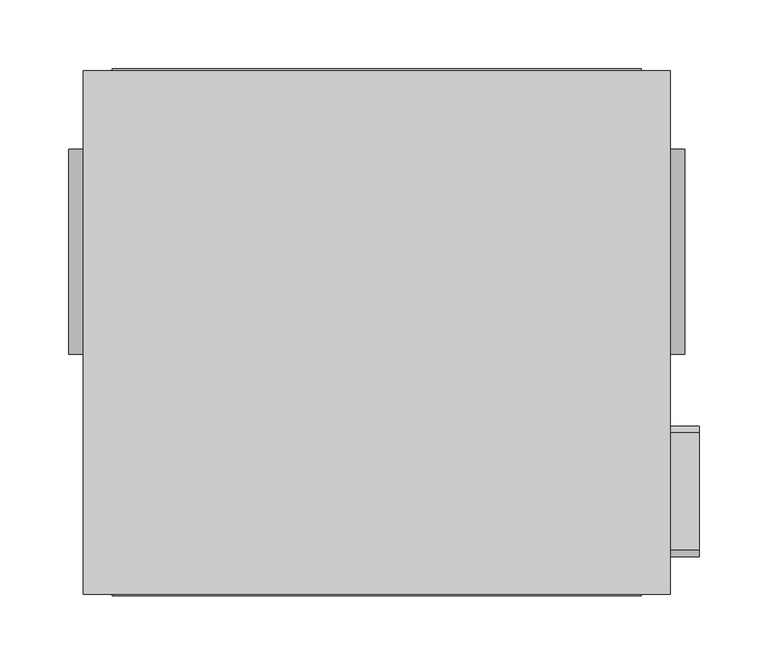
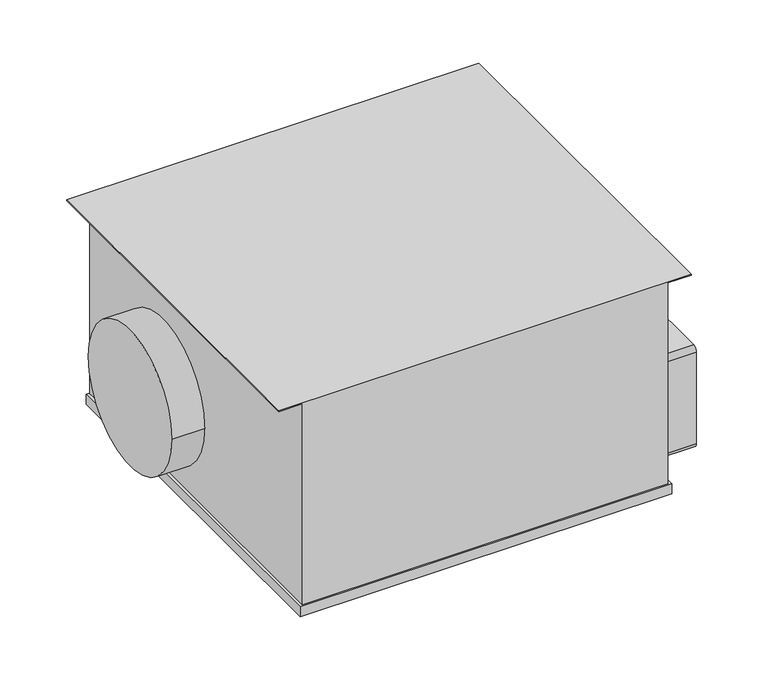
"""IFC4 building model written with IfcOpenShell, lengths in millimetres: unitary equipment geometry, VE-Wentylator-ParaForma-Harmann-ECOBOX_EC-Nawiewny : 150/500EC."""

import ifcopenshell
import ifcopenshell.guid

model = None  # the IFC model being written
_history = None  # IfcOwnerHistory: only IFC2X3 demands one
_inside = {}  # id of a spatial element -> (the spatial element, [elements in it])
_under = {}  # id of a project, library or spatial element -> (it, [spatial elements below it])
_declared = {}  # id of a project -> (the project, [libraries it declares])
_typed = {}  # id of a type object -> (the type object, [elements of that type])
_made_of = {}  # id of a material, layer set ... -> (it, [elements and type objects made of it])


def new_model(schema):
    """Start an empty IFC model of exactly this schema.

    Asked for "IFC4X3", IfcOpenShell would pick the latest addendum, in which some entities
    have other attributes; the version numbers below select the first issue.
    IFC2X3 requires an IfcOwnerHistory on every rooted entity: one is made here for all.
    """
    global model, _history
    if schema == "IFC4X3":
        model = ifcopenshell.file(schema_version=(4, 3, 0, 0))
    else:
        model = ifcopenshell.file(schema=schema)
    _inside.clear()
    _under.clear()
    _declared.clear()
    _typed.clear()
    _made_of.clear()
    _history = None
    if model.schema == "IFC2X3":
        org = make("IfcOrganization", Name="unknown")
        user = make(
            "IfcPersonAndOrganization",
            ThePerson=make("IfcPerson", FamilyName="unknown"),
            TheOrganization=org,
        )
        app = make(
            "IfcApplication",
            ApplicationDeveloper=org,
            Version="unknown",
            ApplicationFullName="unknown",
            ApplicationIdentifier="unknown",
        )
        _history = make(
            "IfcOwnerHistory",
            OwningUser=user,
            OwningApplication=app,
            ChangeAction="ADDED",
            CreationDate=0,
        )
    return model


def make(cls, **values):
    """One entity of the class cls with the attributes given. An attribute that is None is left unset."""
    return model.create_entity(
        cls, **{name: value for name, value in values.items() if value is not None}
    )


def rooted(cls, **values):
    """An entity with a GlobalId (a new one), such as an element, a storey or a relation."""
    return make(cls, GlobalId=ifcopenshell.guid.new(), OwnerHistory=_history, **values)


def si_unit(unit_type, name, prefix=None):
    """IfcSIUnit, for example si_unit("LENGTHUNIT", "METRE", prefix="MILLI")."""
    return make("IfcSIUnit", UnitType=unit_type, Prefix=prefix, Name=name)


def assignment(units):
    """IfcUnitAssignment: the units of a project."""
    return None if units is None else make("IfcUnitAssignment", Units=units)


def point(xyz):
    """IfcCartesianPoint."""
    return None if xyz is None else make("IfcCartesianPoint", Coordinates=xyz)


def direction(xyz):
    """IfcDirection."""
    return None if xyz is None else make("IfcDirection", DirectionRatios=xyz)


def frame(location, z_axis=None, x_axis=None):
    """IfcAxis2Placement3D, a coordinate frame: its origin and axes. An axis left out is left unset."""
    return make(
        "IfcAxis2Placement3D",
        Location=point(location),
        Axis=direction(z_axis),
        RefDirection=direction(x_axis),
    )


def frame_2d(location, x_axis=None):
    """IfcAxis2Placement2D, a coordinate frame in the plane: its origin and x axis."""
    return make(
        "IfcAxis2Placement2D", Location=point(location), RefDirection=direction(x_axis)
    )


def origin():
    """The frame at (0, 0, 0) with its axes left unset."""
    return frame((0.0, 0.0, 0.0))


def origin_2d():
    """The frame at (0, 0) in the plane with its x axis left unset."""
    return frame_2d((0.0, 0.0))


def place(relative_to, where):
    """IfcLocalPlacement: puts the frame where relative to a parent placement (None: the world)."""
    return make(
        "IfcLocalPlacement", PlacementRelTo=relative_to, RelativePlacement=where
    )


def context(
    kind, dimensions, precision=None, world=None, true_north=None, identifier=None
):
    """IfcGeometricRepresentationContext, for example the 3D "Model" context."""
    return make(
        "IfcGeometricRepresentationContext",
        ContextIdentifier=identifier,
        ContextType=kind,
        CoordinateSpaceDimension=dimensions,
        Precision=precision,
        WorldCoordinateSystem=world,
        TrueNorth=true_north,
    )


def project(units=None, contexts=None):
    """IfcProject with its units and contexts."""
    return rooted(
        "IfcProject",
        Name="project",
        RepresentationContexts=contexts,
        UnitsInContext=assignment(units),
    )


def spatial(cls, under=None, at=None, **own):
    """A site, building, storey or space (cls), placed at a placement, below another one or the project."""
    s = rooted(cls, ObjectPlacement=at, **own)
    if under is not None:
        _under.setdefault(under.id(), (under, []))[1].append(s)
    return s


def polyline(points):
    """IfcPolyline through the points."""
    return make("IfcPolyline", Points=[point(p) for p in points])


def circle_curve(where, radius):
    """IfcCircle in the frame where."""
    return make("IfcCircle", Position=where, Radius=radius)


def trimmed(basis, trim1, trim2, sense, master):
    """IfcTrimmedCurve: the piece of a basis curve between two trims."""
    return make(
        "IfcTrimmedCurve",
        BasisCurve=basis,
        Trim1=trim1,
        Trim2=trim2,
        SenseAgreement=sense,
        MasterRepresentation=master,
    )


def segment(curve, same_sense, transition):
    """IfcCompositeCurveSegment."""
    return make(
        "IfcCompositeCurveSegment",
        Transition=transition,
        SameSense=same_sense,
        ParentCurve=curve,
    )


def composite_curve(segments, self_intersect=None):
    """IfcCompositeCurve: segments joined end to end."""
    return make("IfcCompositeCurve", Segments=segments, SelfIntersect=self_intersect)


def outline(outer, holes=None, kind="AREA"):
    """IfcArbitraryClosedProfileDef: a profile drawn as a closed curve; with holes, ...WithVoids."""
    if holes is None:
        return make("IfcArbitraryClosedProfileDef", ProfileType=kind, OuterCurve=outer)
    return make(
        "IfcArbitraryProfileDefWithVoids",
        ProfileType=kind,
        OuterCurve=outer,
        InnerCurves=holes,
    )


def extrude(swept, where, along, depth):
    """IfcExtrudedAreaSolid: the profile swept, set in the frame where, extruded along a direction by depth."""
    return make(
        "IfcExtrudedAreaSolid",
        SweptArea=swept,
        Position=where,
        ExtrudedDirection=direction(along),
        Depth=depth,
    )


def shape(context_of_items, identifier, shape_type, items):
    """IfcShapeRepresentation: the items that make up one representation, for example the "Body"."""
    return make(
        "IfcShapeRepresentation",
        ContextOfItems=context_of_items,
        RepresentationIdentifier=identifier,
        RepresentationType=shape_type,
        Items=items,
    )


def source(mapping_origin, context_of_items, identifier, shape_type, items):
    """IfcRepresentationMap: a shape defined once, which mapped items show again and again."""
    return make(
        "IfcRepresentationMap",
        MappingOrigin=mapping_origin,
        MappedRepresentation=shape(context_of_items, identifier, shape_type, items),
    )


def transform(
    local_origin,
    x_axis=None,
    y_axis=None,
    z_axis=None,
    scale=None,
    scale2=None,
    scale3=None,
    uniform=True,
):
    """IfcCartesianTransformationOperator3D, or its non-uniform kind. x_axis, y_axis, z_axis: its Axis1, 2, 3."""
    if uniform:
        return make(
            "IfcCartesianTransformationOperator3D",
            Axis1=direction(x_axis),
            Axis2=direction(y_axis),
            LocalOrigin=point(local_origin),
            Scale=scale,
            Axis3=direction(z_axis),
        )
    return make(
        "IfcCartesianTransformationOperator3DnonUniform",
        Axis1=direction(x_axis),
        Axis2=direction(y_axis),
        LocalOrigin=point(local_origin),
        Scale=scale,
        Axis3=direction(z_axis),
        Scale2=scale2,
        Scale3=scale3,
    )


def mapped(mapping_source, mapping_target):
    """IfcMappedItem: shows the shape of a source again, moved by a transform."""
    return make(
        "IfcMappedItem", MappingSource=mapping_source, MappingTarget=mapping_target
    )


def made_of(thing, what):
    """Note that an element or type object is made of a material, layer set ...; save() writes the relation."""
    if what is not None:
        _made_of.setdefault(what.id(), (what, []))[1].append(thing)
    return thing


def element(
    cls,
    number,
    at=None,
    inside=None,
    cuts=None,
    type_object=None,
    material=None,
    context=None,
    identifier="Body",
    shape_type=None,
    held_by="IfcProductDefinitionShape",
    body=None,
    shapes=None,
    **own,
):
    """One element of the class cls, such as IfcWall. Its Tag is "e" and its number.

    at: its placement. inside: the storey or other place that contains it. cuts: it is an
    opening in that element (IfcRelVoidsElement). A single representation is given by context,
    identifier, shape_type and body (its items); several are given by shapes. held_by: the class
    of the entity that holds the representations. save() writes the other relations.
    """
    e = rooted(cls, Tag="e%d" % number, ObjectPlacement=at, **own)
    if body is not None:
        shapes = [shape(context, identifier, shape_type, body)]
    if shapes is not None:
        e.Representation = make(held_by, Representations=shapes)
    if inside is not None:
        _inside.setdefault(inside.id(), (inside, []))[1].append(e)
    if cuts is not None:
        rooted(
            "IfcRelVoidsElement", RelatingBuildingElement=cuts, RelatedOpeningElement=e
        )
    if type_object is not None:
        _typed.setdefault(type_object.id(), (type_object, []))[1].append(e)
    return made_of(e, material)


def aggregate(whole, parts):
    """IfcRelAggregates: a whole, such as a stair, and the parts it consists of."""
    return rooted("IfcRelAggregates", RelatingObject=whole, RelatedObjects=parts)


def save(model, path):
    """Write the relations noted so far, then the file.

    IfcRelAggregates (storeys below a building ...), IfcRelContainedInSpatialStructure (elements
    in a storey), IfcRelDefinesByType, IfcRelAssociatesMaterial and IfcRelDeclares: one each for
    every whole, place, type object, material and project.
    """
    for whole, parts in _under.values():
        aggregate(whole, parts)
    for where, things in _inside.values():
        rooted(
            "IfcRelContainedInSpatialStructure",
            RelatedElements=things,
            RelatingStructure=where,
        )
    for kind, things in _typed.values():
        rooted("IfcRelDefinesByType", RelatedObjects=things, RelatingType=kind)
    for what, things in _made_of.values():
        rooted("IfcRelAssociatesMaterial", RelatedObjects=things, RelatingMaterial=what)
    for by, libraries in _declared.values():
        rooted("IfcRelDeclares", RelatingContext=by, RelatedDefinitions=libraries)
    model.write(path)


def unitary_equipment_99462ab2(model_context):
    return source(origin(), model_context, "Body", "SweptSolid", [
        extrude(outline(composite_curve([segment(trimmed(circle_curve(frame_2d((-216.5, -76.0)), 5.0), [point((-216.5, -81.0))], [point((-221.5, -76.0))], False, "CARTESIAN"), True, "CONTINUOUS"), segment(polyline([(-221.5, -76.0), (-221.5, 24.0)]), True, "CONTINUOUS"), segment(trimmed(circle_curve(frame_2d((-216.5, 24.0)), 5.0), [point((-221.5, 24.0))], [point((-216.5, 29.0))], False, "CARTESIAN"), True, "CONTINUOUS"), segment(polyline([(-216.5, 29.0), (-131.5, 29.0)]), True, "CONTINUOUS"), segment(trimmed(circle_curve(frame_2d((-131.5, 24.0)), 5.0), [point((-131.5, 29.0))], [point((-126.5, 24.0))], False, "CARTESIAN"), True, "CONTINUOUS"), segment(polyline([(-126.5, 24.0), (-126.5, -76.0)]), True, "CONTINUOUS"), segment(trimmed(circle_curve(frame_2d((-131.5, -76.0)), 5.0), [point((-126.5, -76.0))], [point((-131.5, -81.0))], False, "CARTESIAN"), True, "CONTINUOUS"), segment(polyline([(-131.5, -81.0), (-216.5, -81.0)]), True, "CONTINUOUS")], self_intersect=False)), frame((189.0, 0.0, 0.0), z_axis=(1.0, 0.0, 0.0), x_axis=(0.0, 1.0, 0.0)), (0.0, 0.0, 1.0), 45.0),
        extrude(outline(polyline([(-192.0, -249.8), (-192.0, 132.8), (192.0, 132.8), (192.0, -249.8), (-192.0, -249.8)])), frame((0.0, 0.0, -98.8), z_axis=(0.0, 0.0, 1.0), x_axis=(1.0, 0.0, 0.0)), (0.0, 0.0, 1.0), 10.9),
        extrude(outline(polyline([(133.0, -213.0), (132.0, -213.0), (132.0, -189.0), (-87.9, -189.0), (-87.9, 189.0), (132.0, 189.0), (132.0, 213.0), (133.0, 213.0), (133.0, -213.0)])), frame((0.0, -248.5, 0.0), z_axis=(0.0, 1.0, 0.0), x_axis=(0.0, 0.0, 1.0)), (0.0, 0.0, 1.0), 380.0),
        extrude(outline(composite_curve([segment(trimmed(circle_curve(origin_2d(), 74.5), [point((-74.5, 0.0))], [point((74.5, 0.0))], False, "CARTESIAN"), True, "CONTINUOUS"), segment(trimmed(circle_curve(origin_2d(), 74.5), [point((74.5, 0.0))], [point((-74.5, 0.0))], False, "CARTESIAN"), True, "CONTINUOUS")], self_intersect=False)), frame((189.0, 0.0, 0.0), z_axis=(1.0, 0.0, 0.0), x_axis=(0.0, 1.0, 0.0)), (0.0, 0.0, 1.0), 34.5),
        extrude(outline(composite_curve([segment(trimmed(circle_curve(origin_2d(), 74.5), [point((-74.5, 0.0))], [point((74.5, 0.0))], False, "CARTESIAN"), True, "CONTINUOUS"), segment(trimmed(circle_curve(origin_2d(), 74.5), [point((74.5, 0.0))], [point((-74.5, 0.0))], False, "CARTESIAN"), True, "CONTINUOUS")], self_intersect=False)), frame((-223.5, 0.0, 0.0), z_axis=(1.0, 0.0, 0.0), x_axis=(0.0, 1.0, 0.0)), (0.0, 0.0, 1.0), 34.5),
    ])


if __name__ == "__main__":
    model = new_model("IFC4")
    model_context = context("Model", 3, world=origin())
    ifc_project = project(units=[si_unit("LENGTHUNIT", "METRE", prefix="MILLI")], contexts=[model_context])
    site = spatial("IfcSite", under=ifc_project)
    building = spatial("IfcBuilding", under=site)
    placement = place(None, origin())
    unitary_equipment_shape = unitary_equipment_99462ab2(model_context)
    element("IfcUnitaryEquipment", 1, ObjectType="VE-Wentylator-ParaForma-Harmann-ECOBOX_EC-Nawiewny : 150/500EC", at=placement, inside=building, context=model_context, shape_type="MappedRepresentation", body=[
        mapped(unitary_equipment_shape, transform((0.0, 0.0, 0.0), x_axis=(1.0, 0.0, 0.0), y_axis=(0.0, 1.0, 0.0), z_axis=(0.0, 0.0, 1.0))),
    ])
    save(model, "model.ifc")
